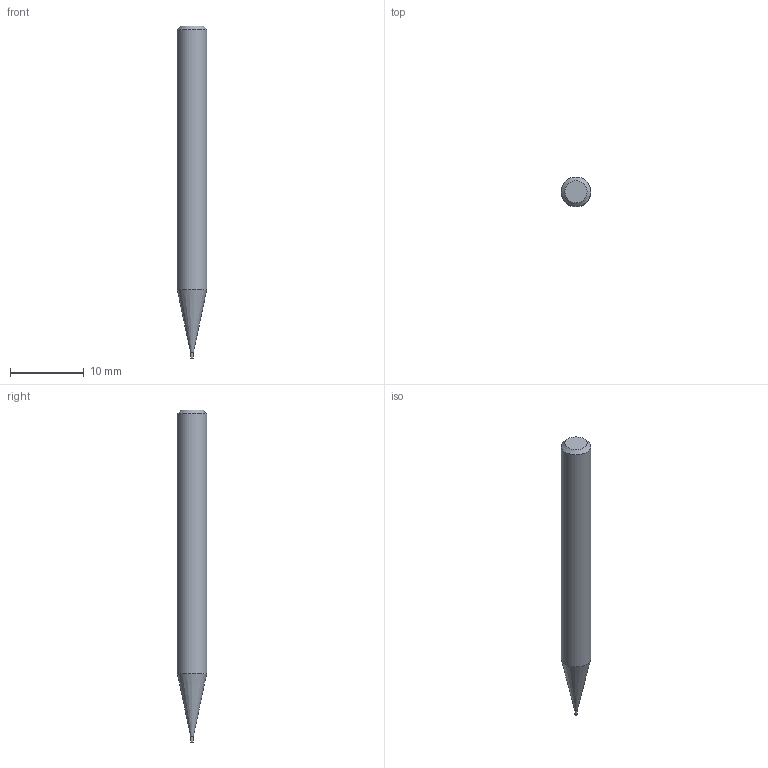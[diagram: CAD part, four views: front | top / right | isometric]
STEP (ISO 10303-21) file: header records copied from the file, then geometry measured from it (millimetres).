
FILE_DESCRIPTION((''),'2;1');
FILE_NAME('C:\Users\nsx150\AppData\Local\Temp\Mastercam 2021\E36A1X9CCL\TEMP.step','2023-04-21T15:12:04',(''),(''),'STEP Write','Mastercam 2021 ... CNC Software, Inc.','');
FILE_SCHEMA(('AUTOMOTIVE_DESIGN'));
Length unit declared in the file: millimetre
Products named in the file (1): None
Bounding box: 4 x 4 x 45 mm (x, y, z)
Volume: 487.1 mm3; surface area: 518.8 mm2
Topology: 2 solids, 2 shells, 8 faces, 10 edges, 6 vertices
Faces by surface type: plane 4, cylinder 2, cone 2
Full cylindrical faces by diameter (mm): 0.4 x1, 4 x1
Entity records: 190 total; most frequent: DIRECTION 32, CARTESIAN_POINT 22, AXIS2_PLACEMENT_3D 16, ORIENTED_EDGE 12, EDGE_LOOP 12, STYLED_ITEM 11, ADVANCED_FACE 8, VERTEX_POINT 6
